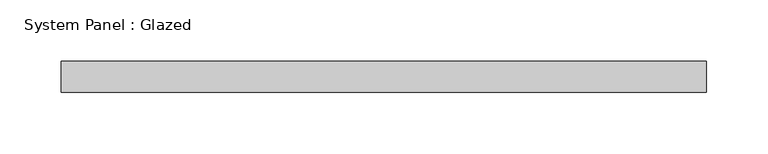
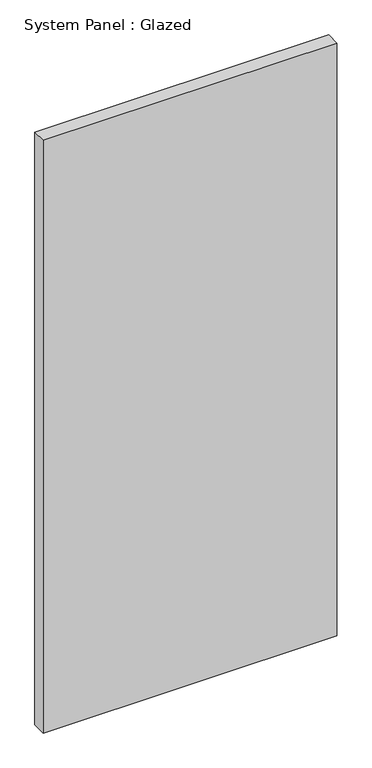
"""IFC4 building model written with IfcOpenShell, lengths in millimetres: plate geometry, System Panel : Glazed."""

from ifc_helpers import new_model, si_unit, origin, origin_with_axes, place, context, project, spatial, polyline, outline, extrude, source, transform, mapped, element, save


def system_panel_glazed_4b84483b(model_context):
    return source(origin(), model_context, "Body", "SweptSolid", [
        extrude(outline(polyline([(263.525, -44.45), (-263.525, -44.45), (-263.525, -19.05), (263.525, -19.05), (263.525, -44.45)])), origin_with_axes(), (0.0, 0.0, 1.0), 1123.95),
    ])


if __name__ == "__main__":
    model = new_model("IFC4")
    model_context = context("Model", 3, world=origin())
    ifc_project = project(units=[si_unit("LENGTHUNIT", "METRE", prefix="MILLI")], contexts=[model_context])
    site = spatial("IfcSite", under=ifc_project)
    building = spatial("IfcBuilding", under=site)
    placement = place(None, origin())
    system_panel_glazed_shape = system_panel_glazed_4b84483b(model_context)
    element("IfcPlate", 1, ObjectType="System Panel : Glazed", at=placement, inside=building, context=model_context, shape_type="MappedRepresentation", body=[
        mapped(system_panel_glazed_shape, transform((0.0, 0.0, 0.0), x_axis=(1.0, 0.0, 0.0), y_axis=(0.0, 1.0, 0.0), z_axis=(0.0, 0.0, 1.0))),
    ])
    save(model, "model.ifc")
